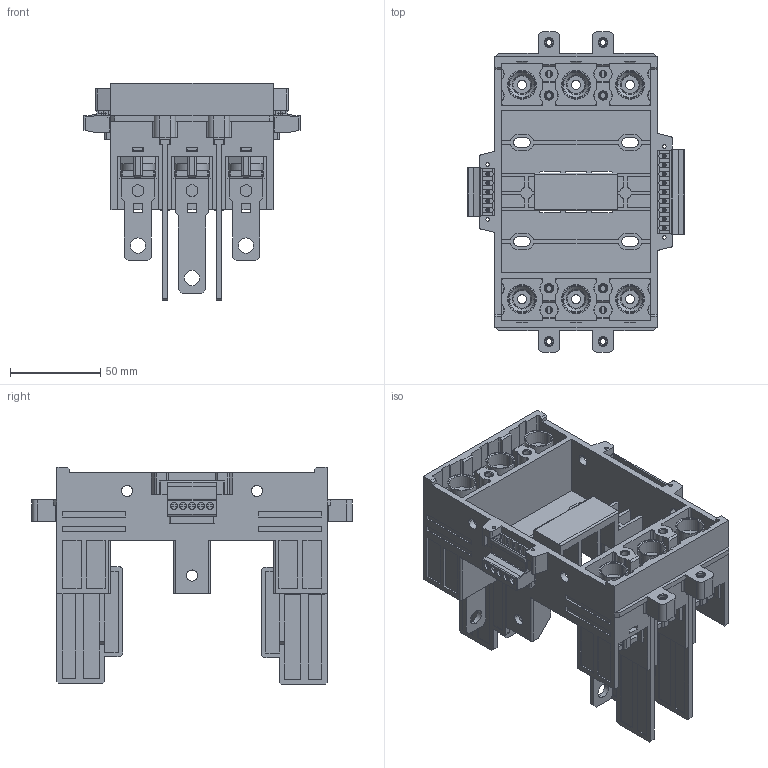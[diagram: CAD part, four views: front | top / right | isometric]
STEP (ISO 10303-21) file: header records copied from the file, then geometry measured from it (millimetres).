
FILE_DESCRIPTION (( 'STEP AP203' ), '1' );
FILE_NAME ('NDM5-160-3P带二次插入式板后水平.STEP', '2024-09-20T08:27:34', ( 'A' ), ( '' ), 'SwSTEP 2.0', 'SolidWorks 2018', '' );
FILE_SCHEMA (( 'CONFIG_CONTROL_DESIGN' ));
Length unit declared in the file: millimetre
Products named in the file (1): NDM5-160-3P带二次插入式板后水平ê_°_oó____¨o____o¨_____
Bounding box: 120.2 x 178 x 120.5 mm (x, y, z)
Volume: 295880.1 mm3; surface area: 248975.5 mm2
Topology: 49 solids, 49 shells, 3760 faces, 10532 edges, 6806 vertices
Faces by surface type: plane 2376, cylinder 962, bspline 252, cone 142, torus 28
Entity records: 132029 total; most frequent: CARTESIAN_POINT 36357, ORIENTED_EDGE 20788, DIRECTION 18754, EDGE_CURVE 10394, VERTEX_POINT 6806, LINE 6796, VECTOR 6796, AXIS2_PLACEMENT_3D 5979
